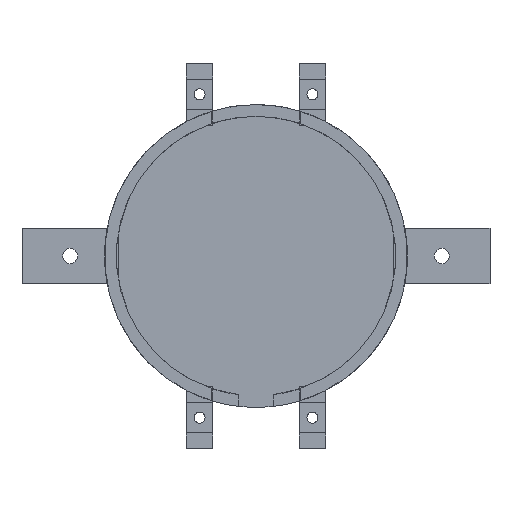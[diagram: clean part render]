
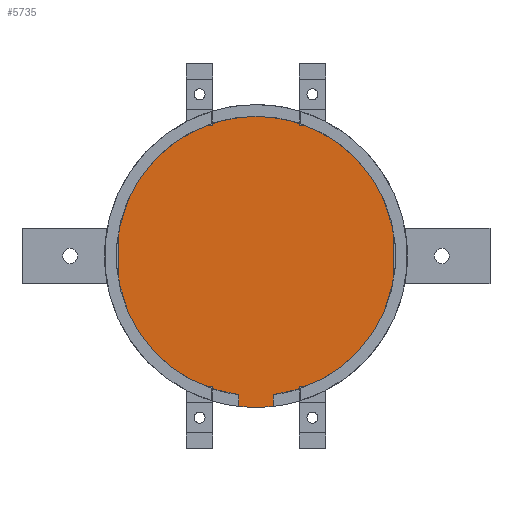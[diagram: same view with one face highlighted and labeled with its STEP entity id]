
A CAD part, front view. The second image highlights one B-rep face of the part: STEP entity #5735.
In plain terms, the highlighted planar face has unit normal (0, -1, 0).
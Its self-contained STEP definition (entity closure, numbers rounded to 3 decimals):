
#257 = VERTEX_POINT('',#258);
#258 = CARTESIAN_POINT('',(2.5,-14.4,10.143));
#271 = PLANE('',#272);
#272 = AXIS2_PLACEMENT_3D('',#273,#274,#275);
#273 = CARTESIAN_POINT('',(2.5,-17.,8.5));
#274 = DIRECTION('',(1.,0.,0.));
#275 = DIRECTION('',(0.,0.,1.));
#300 = CYLINDRICAL_SURFACE('',#301,22.);
#301 = AXIS2_PLACEMENT_3D('',#302,#303,#304);
#302 = CARTESIAN_POINT('',(0.,-12.9,32.));
#303 = DIRECTION('',(0.,-1.,0.));
#304 = DIRECTION('',(1.,0.,0.));
#312 = VERTEX_POINT('',#313);
#313 = CARTESIAN_POINT('',(-2.5,-14.4,10.143));
#349 = PLANE('',#350);
#350 = AXIS2_PLACEMENT_3D('',#351,#352,#353);
#351 = CARTESIAN_POINT('',(-2.5,-17.,8.5));
#352 = DIRECTION('',(1.,0.,0.));
#353 = DIRECTION('',(0.,0.,1.));
#1199 = CYLINDRICAL_SURFACE('',#1200,20.3);
#1200 = AXIS2_PLACEMENT_3D('',#1201,#1202,#1203);
#1201 = CARTESIAN_POINT('',(0.,-9.7,32.));
#1202 = DIRECTION('',(0.,-1.,0.));
#1203 = DIRECTION('',(1.,0.,0.));
#2864 = EDGE_CURVE('',#257,#2865,#2867,.T.);
#2865 = VERTEX_POINT('',#2866);
#2866 = CARTESIAN_POINT('',(2.5,-14.4,11.855));
#2867 = SURFACE_CURVE('',#2868,(#2872,#2879),.PCURVE_S1.);
#2868 = LINE('',#2869,#2870);
#2869 = CARTESIAN_POINT('',(2.5,-14.4,-95.75));
#2870 = VECTOR('',#2871,1.);
#2871 = DIRECTION('',(0.,0.,1.));
#2872 = PCURVE('',#271,#2873);
#2873 = DEFINITIONAL_REPRESENTATION('',(#2874),#2878);
#2874 = LINE('',#2875,#2876);
#2875 = CARTESIAN_POINT('',(-104.25,-2.6));
#2876 = VECTOR('',#2877,1.);
#2877 = DIRECTION('',(1.,0.));
#2878 = ( GEOMETRIC_REPRESENTATION_CONTEXT(2) 
PARAMETRIC_REPRESENTATION_CONTEXT() REPRESENTATION_CONTEXT('2D SPACE',''
  ) );
#2879 = PCURVE('',#2880,#2885);
#2880 = PLANE('',#2881);
#2881 = AXIS2_PLACEMENT_3D('',#2882,#2883,#2884);
#2882 = CARTESIAN_POINT('',(0.,-14.4,32.));
#2883 = DIRECTION('',(0.,-1.,0.));
#2884 = DIRECTION('',(1.,0.,0.));
#2885 = DEFINITIONAL_REPRESENTATION('',(#2886),#2890);
#2886 = LINE('',#2887,#2888);
#2887 = CARTESIAN_POINT('',(2.5,-127.75));
#2888 = VECTOR('',#2889,1.);
#2889 = DIRECTION('',(0.,1.));
#2890 = ( GEOMETRIC_REPRESENTATION_CONTEXT(2) 
PARAMETRIC_REPRESENTATION_CONTEXT() REPRESENTATION_CONTEXT('2D SPACE',''
  ) );
#3024 = EDGE_CURVE('',#312,#257,#3025,.T.);
#3025 = SURFACE_CURVE('',#3026,(#3031,#3038),.PCURVE_S1.);
#3026 = CIRCLE('',#3027,22.);
#3027 = AXIS2_PLACEMENT_3D('',#3028,#3029,#3030);
#3028 = CARTESIAN_POINT('',(0.,-14.4,32.));
#3029 = DIRECTION('',(0.,-1.,0.));
#3030 = DIRECTION('',(1.,0.,0.));
#3031 = PCURVE('',#300,#3032);
#3032 = DEFINITIONAL_REPRESENTATION('',(#3033),#3037);
#3033 = LINE('',#3034,#3035);
#3034 = CARTESIAN_POINT('',(0.,1.5));
#3035 = VECTOR('',#3036,1.);
#3036 = DIRECTION('',(1.,0.));
#3037 = ( GEOMETRIC_REPRESENTATION_CONTEXT(2) 
PARAMETRIC_REPRESENTATION_CONTEXT() REPRESENTATION_CONTEXT('2D SPACE',''
  ) );
#3038 = PCURVE('',#2880,#3039);
#3039 = DEFINITIONAL_REPRESENTATION('',(#3040),#3044);
#3040 = CIRCLE('',#3041,22.);
#3041 = AXIS2_PLACEMENT_2D('',#3042,#3043);
#3042 = CARTESIAN_POINT('',(0.,0.));
#3043 = DIRECTION('',(1.,0.));
#3044 = ( GEOMETRIC_REPRESENTATION_CONTEXT(2) 
PARAMETRIC_REPRESENTATION_CONTEXT() REPRESENTATION_CONTEXT('2D SPACE',''
  ) );
#3318 = EDGE_CURVE('',#312,#3319,#3321,.T.);
#3319 = VERTEX_POINT('',#3320);
#3320 = CARTESIAN_POINT('',(-2.5,-14.4,11.855));
#3321 = SURFACE_CURVE('',#3322,(#3326,#3333),.PCURVE_S1.);
#3322 = LINE('',#3323,#3324);
#3323 = CARTESIAN_POINT('',(-2.5,-14.4,-95.75));
#3324 = VECTOR('',#3325,1.);
#3325 = DIRECTION('',(0.,0.,1.));
#3326 = PCURVE('',#349,#3327);
#3327 = DEFINITIONAL_REPRESENTATION('',(#3328),#3332);
#3328 = LINE('',#3329,#3330);
#3329 = CARTESIAN_POINT('',(-104.25,-2.6));
#3330 = VECTOR('',#3331,1.);
#3331 = DIRECTION('',(1.,0.));
#3332 = ( GEOMETRIC_REPRESENTATION_CONTEXT(2) 
PARAMETRIC_REPRESENTATION_CONTEXT() REPRESENTATION_CONTEXT('2D SPACE',''
  ) );
#3333 = PCURVE('',#2880,#3334);
#3334 = DEFINITIONAL_REPRESENTATION('',(#3335),#3339);
#3335 = LINE('',#3336,#3337);
#3336 = CARTESIAN_POINT('',(-2.5,-127.75));
#3337 = VECTOR('',#3338,1.);
#3338 = DIRECTION('',(0.,1.));
#3339 = ( GEOMETRIC_REPRESENTATION_CONTEXT(2) 
PARAMETRIC_REPRESENTATION_CONTEXT() REPRESENTATION_CONTEXT('2D SPACE',''
  ) );
#4685 = EDGE_CURVE('',#2865,#3319,#4686,.T.);
#4686 = SURFACE_CURVE('',#4687,(#4692,#4699),.PCURVE_S1.);
#4687 = CIRCLE('',#4688,20.3);
#4688 = AXIS2_PLACEMENT_3D('',#4689,#4690,#4691);
#4689 = CARTESIAN_POINT('',(0.,-14.4,32.));
#4690 = DIRECTION('',(0.,-1.,0.));
#4691 = DIRECTION('',(0.123,0.,-0.992));
#4692 = PCURVE('',#1199,#4693);
#4693 = DEFINITIONAL_REPRESENTATION('',(#4694),#4698);
#4694 = LINE('',#4695,#4696);
#4695 = CARTESIAN_POINT('',(-1.447,4.7));
#4696 = VECTOR('',#4697,1.);
#4697 = DIRECTION('',(1.,0.));
#4698 = ( GEOMETRIC_REPRESENTATION_CONTEXT(2) 
PARAMETRIC_REPRESENTATION_CONTEXT() REPRESENTATION_CONTEXT('2D SPACE',''
  ) );
#4699 = PCURVE('',#2880,#4700);
#4700 = DEFINITIONAL_REPRESENTATION('',(#4701),#4705);
#4701 = CIRCLE('',#4702,20.3);
#4702 = AXIS2_PLACEMENT_2D('',#4703,#4704);
#4703 = CARTESIAN_POINT('',(0.,0.));
#4704 = DIRECTION('',(0.123,-0.992));
#4705 = ( GEOMETRIC_REPRESENTATION_CONTEXT(2) 
PARAMETRIC_REPRESENTATION_CONTEXT() REPRESENTATION_CONTEXT('2D SPACE',''
  ) );
#5735 = ADVANCED_FACE('',(#5736),#2880,.T.);
#5736 = FACE_BOUND('',#5737,.T.);
#5737 = EDGE_LOOP('',(#5738,#5739,#5740,#5741));
#5738 = ORIENTED_EDGE('',*,*,#3318,.F.);
#5739 = ORIENTED_EDGE('',*,*,#3024,.T.);
#5740 = ORIENTED_EDGE('',*,*,#2864,.T.);
#5741 = ORIENTED_EDGE('',*,*,#4685,.T.);
